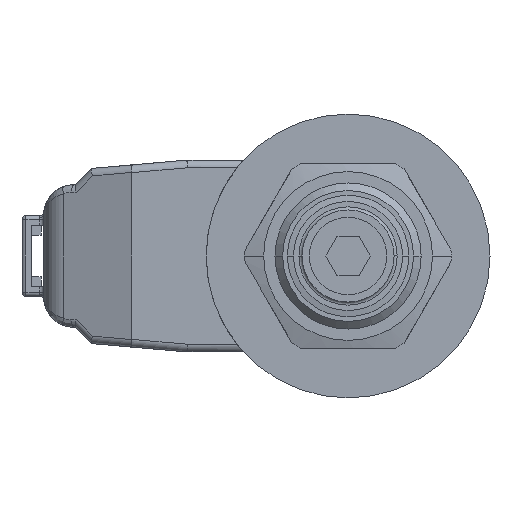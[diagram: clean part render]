
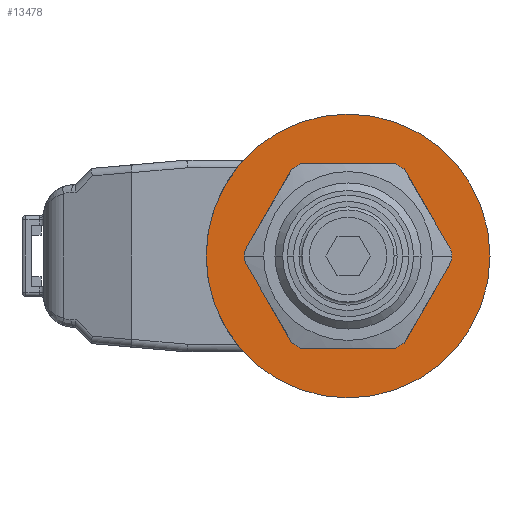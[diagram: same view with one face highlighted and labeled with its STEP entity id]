
A CAD part, left-side view. The second image highlights one B-rep face of the part: STEP entity #13478.
In plain terms, the highlighted planar face has unit normal (-1, 0, 0).
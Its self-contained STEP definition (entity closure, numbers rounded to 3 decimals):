
#9494=CARTESIAN_POINT('',(0.,0.,0.));
#9495=DIRECTION('',(-1.,0.,0.));
#9496=DIRECTION('',(0.,1.,0.));
#9497=AXIS2_PLACEMENT_3D('',#9494,#9495,#9496);
#9502=CARTESIAN_POINT('',(0.,0.,0.));
#9503=DIRECTION('',(1.,0.,0.));
#9504=DIRECTION('',(0.,1.,0.));
#9505=AXIS2_PLACEMENT_3D('',#9502,#9503,#9504);
#9510=CARTESIAN_POINT('',(0.,0.,0.));
#9511=DIRECTION('',(1.,0.,0.));
#9512=DIRECTION('',(0.,1.,0.));
#9513=AXIS2_PLACEMENT_3D('',#9510,#9511,#9512);
#9518=CARTESIAN_POINT('',(0.,0.,0.));
#9519=DIRECTION('',(1.,0.,0.));
#9520=DIRECTION('',(0.,-1.,0.));
#9521=AXIS2_PLACEMENT_3D('',#9518,#9519,#9520);
#12991=CARTESIAN_POINT('',(0.,-18.5,0.));
#12993=VERTEX_POINT('',#12991);
#12999=CARTESIAN_POINT('',(0.,18.5,0.));
#13001=VERTEX_POINT('',#12999);
#13449=CARTESIAN_POINT('',(0.,11.02,0.));
#13450=VERTEX_POINT('',#13449);
#13451=CARTESIAN_POINT('',(0.,-11.02,0.));
#13452=VERTEX_POINT('',#13451);
#13461=CARTESIAN_POINT('',(0.,0.,0.));
#13462=DIRECTION('',(1.,0.,0.));
#13463=DIRECTION('',(0.,-1.,0.));
#13464=AXIS2_PLACEMENT_3D('',#13461,#13462,#13463);
#13465=PLANE('',#13464);
#13467=ORIENTED_EDGE('',*,*,#13466,.F.);
#13469=ORIENTED_EDGE('',*,*,#13468,.T.);
#13470=EDGE_LOOP('',(#13467,#13469));
#13471=FACE_OUTER_BOUND('',#13470,.F.);
#13473=ORIENTED_EDGE('',*,*,#13472,.F.);
#13475=ORIENTED_EDGE('',*,*,#13474,.F.);
#13476=EDGE_LOOP('',(#13473,#13475));
#13477=FACE_BOUND('',#13476,.F.);
#9498=CIRCLE('',#9497,18.5);
#9506=CIRCLE('',#9505,18.5);
#9514=CIRCLE('',#9513,11.02);
#9522=CIRCLE('',#9521,11.02);
#13466=EDGE_CURVE('',#13001,#12993,#9498,.T.);
#13468=EDGE_CURVE('',#13001,#12993,#9506,.T.);
#13472=EDGE_CURVE('',#13450,#13452,#9514,.T.);
#13474=EDGE_CURVE('',#13452,#13450,#9522,.T.);
#13478=ADVANCED_FACE('',(#13471,#13477),#13465,.F.);
